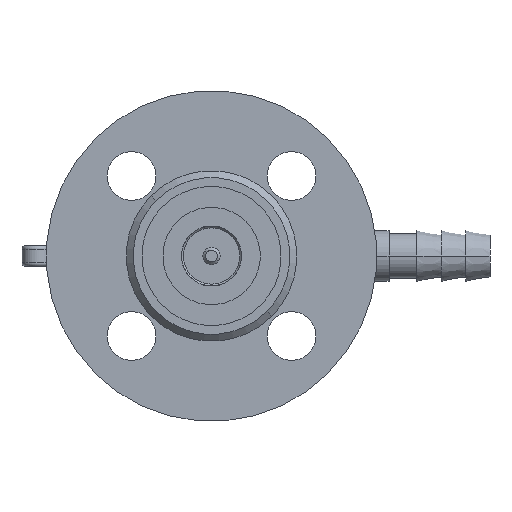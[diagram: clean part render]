
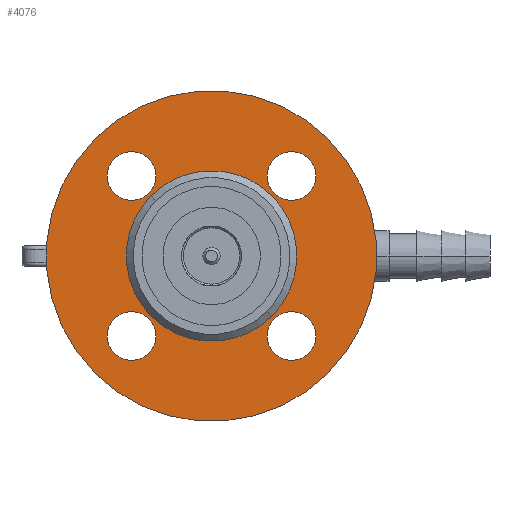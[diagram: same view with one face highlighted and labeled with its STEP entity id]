
A CAD part, front view. The second image highlights one B-rep face of the part: STEP entity #4076.
In plain terms, the highlighted planar face has unit normal (0, -1, 0).
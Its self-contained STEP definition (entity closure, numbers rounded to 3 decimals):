
#16472 = CARTESIAN_POINT ( 'NONE',  ( 39.5, 2., 0. ) ) ;
#129 = CARTESIAN_POINT ( 'NONE',  ( 7., 2., 32.5 ) ) ;
#16530 = EDGE_CURVE ( 'NONE', #16108, #15674, #21925, .T. ) ;
#177 = EDGE_CURVE ( 'NONE', #8962, #2862, #12919, .T. ) ;
#302 = CARTESIAN_POINT ( 'NONE',  ( -39.5, 2., 0. ) ) ;
#354 = ORIENTED_EDGE ( 'NONE', *, *, #177, .T. ) ;
#368 = CIRCLE ( 'NONE', #369, 7. ) ;
#369 = AXIS2_PLACEMENT_3D ( 'NONE', #370, #375, #376 ) ;
#370 = CARTESIAN_POINT ( 'NONE',  ( 0., 2., 32.5 ) ) ;
#375 = DIRECTION ( 'NONE',  ( 0., 1., 0. ) ) ;
#376 = DIRECTION ( 'NONE',  ( -1., 0., 0. ) ) ;
#972 = CARTESIAN_POINT ( 'NONE',  ( -7., 2., -32.5 ) ) ;
#1078 = EDGE_LOOP ( 'NONE', ( #354, #5416 ) ) ;
#17575 = CARTESIAN_POINT ( 'NONE',  ( 24.5, 2., 0. ) ) ;
#1266 = CARTESIAN_POINT ( 'NONE',  ( 7., 2., -32.5 ) ) ;
#1339 = ORIENTED_EDGE ( 'NONE', *, *, #6300, .T. ) ;
#1501 = CIRCLE ( 'NONE', #1502, 7. ) ;
#1502 = AXIS2_PLACEMENT_3D ( 'NONE', #1503, #1504, #1505 ) ;
#1503 = CARTESIAN_POINT ( 'NONE',  ( 0., 2., -32.5 ) ) ;
#1504 = DIRECTION ( 'NONE',  ( 0., 1., 0. ) ) ;
#1505 = DIRECTION ( 'NONE',  ( -1., 0., 0. ) ) ;
#18244 = CIRCLE ( 'NONE', #18245, 7. ) ;
#18245 = AXIS2_PLACEMENT_3D ( 'NONE', #18246, #18247, #18248 ) ;
#18246 = CARTESIAN_POINT ( 'NONE',  ( -32.5, 2., 0. ) ) ;
#18247 = DIRECTION ( 'NONE',  ( 0., 1., 0. ) ) ;
#18248 = DIRECTION ( 'NONE',  ( -1., 0., 0. ) ) ;
#1888 = EDGE_CURVE ( 'NONE', #5832, #6057, #15039, .T. ) ;
#2285 = ORIENTED_EDGE ( 'NONE', *, *, #1888, .T. ) ;
#18932 = VERTEX_POINT ( 'NONE', #302 ) ;
#2819 = EDGE_LOOP ( 'NONE', ( #2285, #1339 ) ) ;
#2862 = VERTEX_POINT ( 'NONE', #16472 ) ;
#19286 = VERTEX_POINT ( 'NONE', #972 ) ;
#3078 = ORIENTED_EDGE ( 'NONE', *, *, #22549, .T. ) ;
#19641 = VERTEX_POINT ( 'NONE', #1266 ) ;
#3320 = CIRCLE ( 'NONE', #3321, 7. ) ;
#3321 = AXIS2_PLACEMENT_3D ( 'NONE', #3322, #3323, #3324 ) ;
#3322 = CARTESIAN_POINT ( 'NONE',  ( 0., 2., -32.5 ) ) ;
#3323 = DIRECTION ( 'NONE',  ( 0., 1., 0. ) ) ;
#3324 = DIRECTION ( 'NONE',  ( -1., 0., 0. ) ) ;
#19727 = FACE_BOUND ( 'NONE', #3864, .T. ) ;
#19728 = FACE_BOUND ( 'NONE', #22763, .T. ) ;
#19729 = FACE_BOUND ( 'NONE', #2819, .T. ) ;
#19733 = FACE_BOUND ( 'NONE', #1078, .T. ) ;
#19734 = FACE_OUTER_BOUND ( 'NONE', #5163, .T. ) ;
#19735 = FACE_BOUND ( 'NONE', #6708, .T. ) ;
#19736 = PLANE ( 'NONE',  #19737 ) ;
#19737 = AXIS2_PLACEMENT_3D ( 'NONE', #19738, #19739, #19740 ) ;
#19738 = CARTESIAN_POINT ( 'NONE',  ( 24.5, 2., 0. ) ) ;
#19739 = DIRECTION ( 'NONE',  ( 0., 1., 0. ) ) ;
#19740 = DIRECTION ( 'NONE',  ( -1., 0., 0. ) ) ;
#19870 = EDGE_CURVE ( 'NONE', #19641, #19286, #1501, .T. ) ;
#3614 = EDGE_CURVE ( 'NONE', #18932, #22329, #18244, .T. ) ;
#3864 = EDGE_LOOP ( 'NONE', ( #14928, #21020 ) ) ;
#3891 = CIRCLE ( 'NONE', #3892, 24.5 ) ;
#3892 = AXIS2_PLACEMENT_3D ( 'NONE', #3893, #3894, #3895 ) ;
#3893 = CARTESIAN_POINT ( 'NONE',  ( 0., 2., 0. ) ) ;
#3894 = DIRECTION ( 'NONE',  ( 0., 1., 0. ) ) ;
#3895 = DIRECTION ( 'NONE',  ( -1., 0., 0. ) ) ;
#3916 = CARTESIAN_POINT ( 'NONE',  ( 25.5, 2., 0. ) ) ;
#20335 = CARTESIAN_POINT ( 'NONE',  ( 47.5, 2., 0. ) ) ;
#4076 = ADVANCED_FACE ( 'NONE', ( #19727, #19728, #19729, #19733, #19734, #19735 ), #19736, .F. ) ;
#4615 = ORIENTED_EDGE ( 'NONE', *, *, #16530, .F. ) ;
#21020 = ORIENTED_EDGE ( 'NONE', *, *, #19870, .T. ) ;
#21342 = CARTESIAN_POINT ( 'NONE',  ( -47.5, 2., 0. ) ) ;
#5163 = EDGE_LOOP ( 'NONE', ( #4615, #6958 ) ) ;
#21557 = EDGE_CURVE ( 'NONE', #19286, #19641, #3320, .T. ) ;
#5416 = ORIENTED_EDGE ( 'NONE', *, *, #22571, .T. ) ;
#21906 = EDGE_CURVE ( 'NONE', #11474, #10143, #3891, .T. ) ;
#21925 = CIRCLE ( 'NONE', #21926, 47.5 ) ;
#21926 = AXIS2_PLACEMENT_3D ( 'NONE', #21927, #21928, #21929 ) ;
#21927 = CARTESIAN_POINT ( 'NONE',  ( 0., 2., 0. ) ) ;
#21928 = DIRECTION ( 'NONE',  ( 0., 1., 0. ) ) ;
#21929 = DIRECTION ( 'NONE',  ( -1., 0., 0. ) ) ;
#5832 = VERTEX_POINT ( 'NONE', #22878 ) ;
#22235 = ORIENTED_EDGE ( 'NONE', *, *, #3614, .T. ) ;
#22329 = VERTEX_POINT ( 'NONE', #12040 ) ;
#6057 = VERTEX_POINT ( 'NONE', #129 ) ;
#6167 = ORIENTED_EDGE ( 'NONE', *, *, #10379, .T. ) ;
#22549 = EDGE_CURVE ( 'NONE', #22329, #18932, #13928, .T. ) ;
#22571 = EDGE_CURVE ( 'NONE', #2862, #8962, #14014, .T. ) ;
#6300 = EDGE_CURVE ( 'NONE', #6057, #5832, #368, .T. ) ;
#22763 = EDGE_LOOP ( 'NONE', ( #22235, #3078 ) ) ;
#22878 = CARTESIAN_POINT ( 'NONE',  ( -7., 2., 32.5 ) ) ;
#6708 = EDGE_LOOP ( 'NONE', ( #6167, #11393 ) ) ;
#6958 = ORIENTED_EDGE ( 'NONE', *, *, #9236, .F. ) ;
#8962 = VERTEX_POINT ( 'NONE', #3916 ) ;
#9236 = EDGE_CURVE ( 'NONE', #15674, #16108, #11980, .T. ) ;
#10143 = VERTEX_POINT ( 'NONE', #15137 ) ;
#10379 = EDGE_CURVE ( 'NONE', #10143, #11474, #15304, .T. ) ;
#11393 = ORIENTED_EDGE ( 'NONE', *, *, #21906, .T. ) ;
#11474 = VERTEX_POINT ( 'NONE', #17575 ) ;
#11980 = CIRCLE ( 'NONE', #11981, 47.5 ) ;
#11981 = AXIS2_PLACEMENT_3D ( 'NONE', #11982, #11983, #11984 ) ;
#11982 = CARTESIAN_POINT ( 'NONE',  ( 0., 2., 0. ) ) ;
#11983 = DIRECTION ( 'NONE',  ( 0., 1., 0. ) ) ;
#11984 = DIRECTION ( 'NONE',  ( -1., 0., 0. ) ) ;
#12040 = CARTESIAN_POINT ( 'NONE',  ( -25.5, 2., 0. ) ) ;
#12919 = CIRCLE ( 'NONE', #12920, 7. ) ;
#12920 = AXIS2_PLACEMENT_3D ( 'NONE', #12938, #12939, #12940 ) ;
#12938 = CARTESIAN_POINT ( 'NONE',  ( 32.5, 2., 0. ) ) ;
#12939 = DIRECTION ( 'NONE',  ( 0., 1., 0. ) ) ;
#12940 = DIRECTION ( 'NONE',  ( -1., 0., 0. ) ) ;
#13928 = CIRCLE ( 'NONE', #13947, 7. ) ;
#13947 = AXIS2_PLACEMENT_3D ( 'NONE', #13948, #13949, #13950 ) ;
#13948 = CARTESIAN_POINT ( 'NONE',  ( -32.5, 2., 0. ) ) ;
#13949 = DIRECTION ( 'NONE',  ( 0., 1., 0. ) ) ;
#13950 = DIRECTION ( 'NONE',  ( -1., 0., 0. ) ) ;
#14014 = CIRCLE ( 'NONE', #14015, 7. ) ;
#14015 = AXIS2_PLACEMENT_3D ( 'NONE', #14016, #14017, #14018 ) ;
#14016 = CARTESIAN_POINT ( 'NONE',  ( 32.5, 2., 0. ) ) ;
#14017 = DIRECTION ( 'NONE',  ( 0., 1., 0. ) ) ;
#14018 = DIRECTION ( 'NONE',  ( -1., 0., 0. ) ) ;
#14928 = ORIENTED_EDGE ( 'NONE', *, *, #21557, .T. ) ;
#15039 = CIRCLE ( 'NONE', #15040, 7. ) ;
#15040 = AXIS2_PLACEMENT_3D ( 'NONE', #15041, #15042, #15043 ) ;
#15041 = CARTESIAN_POINT ( 'NONE',  ( 0., 2., 32.5 ) ) ;
#15042 = DIRECTION ( 'NONE',  ( 0., 1., 0. ) ) ;
#15043 = DIRECTION ( 'NONE',  ( -1., 0., 0. ) ) ;
#15137 = CARTESIAN_POINT ( 'NONE',  ( -24.5, 2., 0. ) ) ;
#15304 = CIRCLE ( 'NONE', #15305, 24.5 ) ;
#15305 = AXIS2_PLACEMENT_3D ( 'NONE', #15306, #15307, #15308 ) ;
#15306 = CARTESIAN_POINT ( 'NONE',  ( 0., 2., 0. ) ) ;
#15307 = DIRECTION ( 'NONE',  ( 0., 1., 0. ) ) ;
#15308 = DIRECTION ( 'NONE',  ( -1., 0., 0. ) ) ;
#15674 = VERTEX_POINT ( 'NONE', #20335 ) ;
#16108 = VERTEX_POINT ( 'NONE', #21342 ) ;
